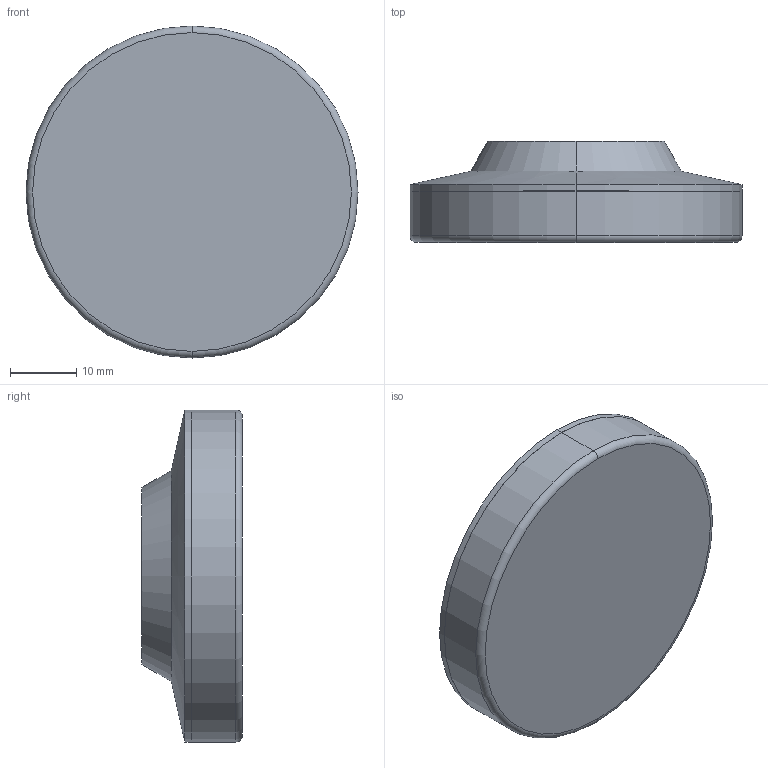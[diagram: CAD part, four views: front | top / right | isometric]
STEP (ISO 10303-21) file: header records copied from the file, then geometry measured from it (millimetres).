
FILE_DESCRIPTION (( 'STEP AP214' ), '1' );
FILE_NAME ('6311.3-50-13,5-G.step', '2023-04-17T05:34:29', ( '' ), ( '' ), 'SwSTEP 2.0', 'SolidWorks 2022', '' );
FILE_SCHEMA (( 'AUTOMOTIVE_DESIGN' ));
Length unit declared in the file: millimetre
Products named in the file (1): 6311.3-50-13,5-G
Bounding box: 50 x 15.2 x 50 mm (x, y, z)
Volume: 21355.4 mm3; surface area: 6943 mm2
Topology: 1 solids, 1 shells, 36 faces, 79 edges, 50 vertices
Faces by surface type: cylinder 16, plane 8, torus 6, cone 4, sphere 2
Entity records: 1146 total; most frequent: DIRECTION 201, CARTESIAN_POINT 198, ORIENTED_EDGE 158, AXIS2_PLACEMENT_3D 89, EDGE_CURVE 79, CIRCLE 52, VERTEX_POINT 50, EDGE_LOOP 41
